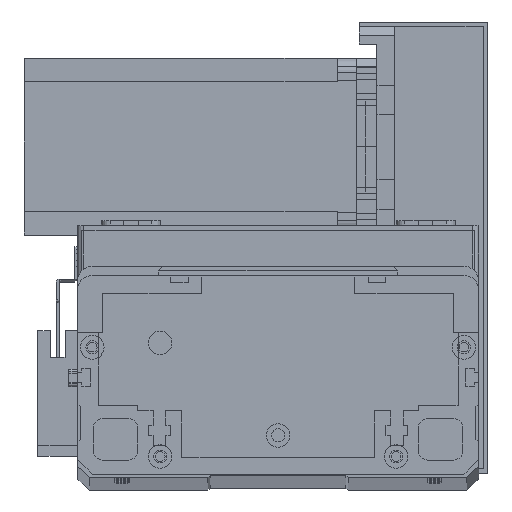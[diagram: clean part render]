
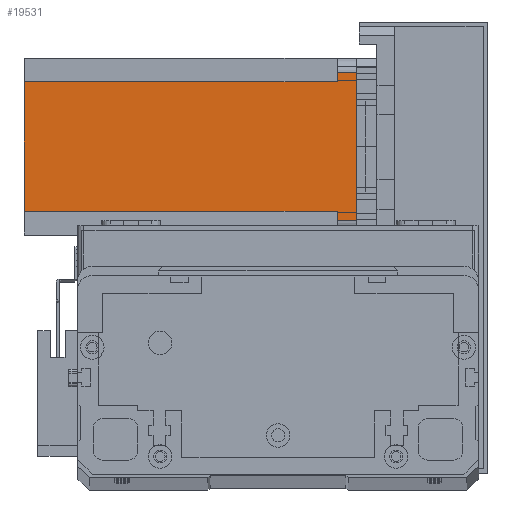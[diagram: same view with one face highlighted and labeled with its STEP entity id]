
A CAD part, top view. The second image highlights one B-rep face of the part: STEP entity #19531.
In plain terms, the highlighted planar face has unit normal (0, 0, 1) as drawn and (0, 1, 0) by its records, which use the part's own axes.
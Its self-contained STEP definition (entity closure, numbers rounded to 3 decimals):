
#8 = CARTESIAN_POINT ( 'NONE',  ( 52., 60., -112.5 ) ) ;
#75 = CARTESIAN_POINT ( 'NONE',  ( 0., 60., -112.5 ) ) ;
#783 = CARTESIAN_POINT ( 'NONE',  ( 55., 60., 0. ) ) ;
#997 = LINE ( 'NONE', #16999, #24935 ) ;
#1492 = CARTESIAN_POINT ( 'NONE',  ( 52., 60., -112.5 ) ) ;
#2545 = DIRECTION ( 'NONE',  ( 0., 0., 1. ) ) ;
#2598 = VECTOR ( 'NONE', #24625, 1000. ) ;
#4047 = CARTESIAN_POINT ( 'NONE',  ( 0., 60., 0. ) ) ;
#4128 = DIRECTION ( 'NONE',  ( -1., 0., 0. ) ) ;
#4398 = ORIENTED_EDGE ( 'NONE', *, *, #19630, .T. ) ;
#4899 = LINE ( 'NONE', #27856, #16228 ) ;
#5069 = FACE_OUTER_BOUND ( 'NONE', #29077, .T. ) ;
#5206 = EDGE_CURVE ( 'NONE', #22986, #10573, #17624, .T. ) ;
#5750 = VERTEX_POINT ( 'NONE', #26993 ) ;
#6901 = ORIENTED_EDGE ( 'NONE', *, *, #20619, .T. ) ;
#7020 = CARTESIAN_POINT ( 'NONE',  ( 55., 60., -112.5 ) ) ;
#7611 = EDGE_CURVE ( 'NONE', #28708, #5750, #15224, .T. ) ;
#8395 = AXIS2_PLACEMENT_3D ( 'NONE', #75, #28654, #14821 ) ;
#8993 = VECTOR ( 'NONE', #11802, 1000. ) ;
#9230 = LINE ( 'NONE', #10496, #2598 ) ;
#10496 = CARTESIAN_POINT ( 'NONE',  ( 8., 60., -6.5 ) ) ;
#10573 = VERTEX_POINT ( 'NONE', #24461 ) ;
#10677 = VECTOR ( 'NONE', #30345, 1000. ) ;
#11394 = CARTESIAN_POINT ( 'NONE',  ( 8., 60., -112.5 ) ) ;
#11739 = ORIENTED_EDGE ( 'NONE', *, *, #7611, .F. ) ;
#11802 = DIRECTION ( 'NONE',  ( 0., 0., -1. ) ) ;
#12368 = EDGE_CURVE ( 'NONE', #22986, #14535, #25501, .T. ) ;
#12479 = VERTEX_POINT ( 'NONE', #24953 ) ;
#13374 = EDGE_CURVE ( 'NONE', #15731, #14535, #22252, .T. ) ;
#14535 = VERTEX_POINT ( 'NONE', #21822 ) ;
#14821 = DIRECTION ( 'NONE',  ( 0., 0., 1. ) ) ;
#15224 = LINE ( 'NONE', #4047, #21438 ) ;
#15731 = VERTEX_POINT ( 'NONE', #21965 ) ;
#16166 = VECTOR ( 'NONE', #26755, 1000. ) ;
#16228 = VECTOR ( 'NONE', #27760, 1000. ) ;
#16396 = EDGE_CURVE ( 'NONE', #10573, #19028, #4899, .T. ) ;
#16999 = CARTESIAN_POINT ( 'NONE',  ( 5., 60., -112.5 ) ) ;
#17624 = LINE ( 'NONE', #8, #16166 ) ;
#18619 = VECTOR ( 'NONE', #28227, 1000. ) ;
#19028 = VERTEX_POINT ( 'NONE', #26702 ) ;
#19531 = ADVANCED_FACE ( 'NONE', ( #5069 ), #21777, .T. ) ;
#19630 = EDGE_CURVE ( 'NONE', #15731, #12479, #9230, .T. ) ;
#20223 = ORIENTED_EDGE ( 'NONE', *, *, #20507, .T. ) ;
#20507 = EDGE_CURVE ( 'NONE', #28708, #19028, #24597, .T. ) ;
#20619 = EDGE_CURVE ( 'NONE', #12479, #5750, #997, .T. ) ;
#20997 = ORIENTED_EDGE ( 'NONE', *, *, #16396, .F. ) ;
#21438 = VECTOR ( 'NONE', #4128, 1000. ) ;
#21777 = PLANE ( 'NONE',  #8395 ) ;
#21822 = CARTESIAN_POINT ( 'NONE',  ( 8., 60., -112.5 ) ) ;
#21965 = CARTESIAN_POINT ( 'NONE',  ( 8., 60., -6.5 ) ) ;
#22252 = LINE ( 'NONE', #11394, #8993 ) ;
#22986 = VERTEX_POINT ( 'NONE', #1492 ) ;
#23527 = ORIENTED_EDGE ( 'NONE', *, *, #5206, .F. ) ;
#24461 = CARTESIAN_POINT ( 'NONE',  ( 52., 60., -6.5 ) ) ;
#24597 = LINE ( 'NONE', #7020, #10677 ) ;
#24625 = DIRECTION ( 'NONE',  ( -1., 0., 0. ) ) ;
#24935 = VECTOR ( 'NONE', #2545, 1000. ) ;
#24953 = CARTESIAN_POINT ( 'NONE',  ( 5., 60., -6.5 ) ) ;
#25501 = LINE ( 'NONE', #28320, #18619 ) ;
#26702 = CARTESIAN_POINT ( 'NONE',  ( 55., 60., -6.5 ) ) ;
#26755 = DIRECTION ( 'NONE',  ( 0., 0., 1. ) ) ;
#26993 = CARTESIAN_POINT ( 'NONE',  ( 5., 60., 0. ) ) ;
#27078 = ORIENTED_EDGE ( 'NONE', *, *, #12368, .T. ) ;
#27760 = DIRECTION ( 'NONE',  ( 1., 0., 0. ) ) ;
#27856 = CARTESIAN_POINT ( 'NONE',  ( 52., 60., -6.5 ) ) ;
#28227 = DIRECTION ( 'NONE',  ( -1., 0., 0. ) ) ;
#28320 = CARTESIAN_POINT ( 'NONE',  ( 0., 60., -112.5 ) ) ;
#28654 = DIRECTION ( 'NONE',  ( 0., 1., 0. ) ) ;
#28708 = VERTEX_POINT ( 'NONE', #783 ) ;
#29077 = EDGE_LOOP ( 'NONE', ( #11739, #20223, #20997, #23527, #27078, #30218, #4398, #6901 ) ) ;
#30218 = ORIENTED_EDGE ( 'NONE', *, *, #13374, .F. ) ;
#30345 = DIRECTION ( 'NONE',  ( 0., 0., -1. ) ) ;
